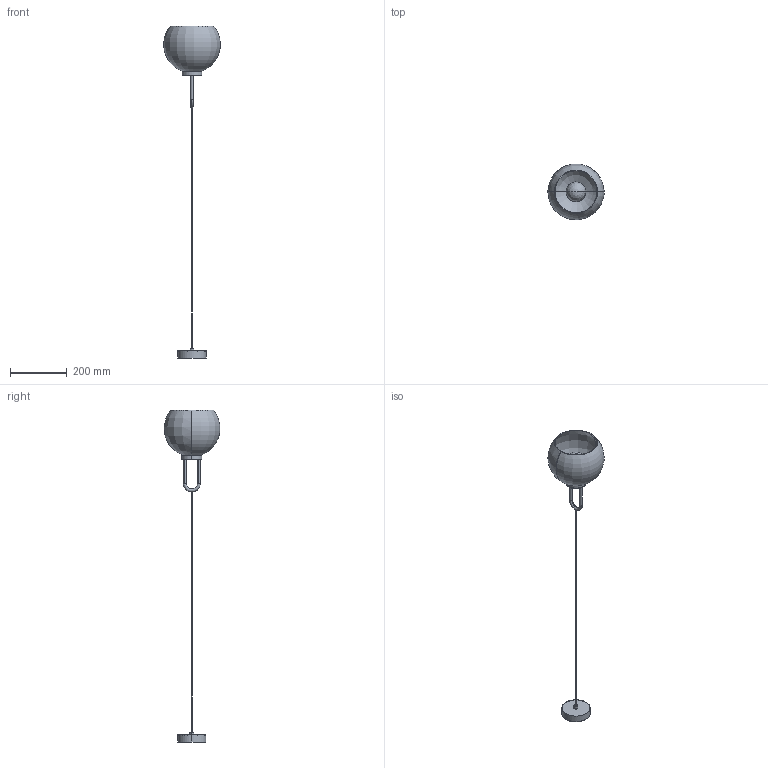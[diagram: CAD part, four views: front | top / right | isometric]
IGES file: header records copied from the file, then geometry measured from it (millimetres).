
Start section: SolidWorks IGES file using analytic representation for surfaces
Global section: file name: F:\燠隴矨\跤藝馱腔3D\Glass Pendant Light.IGS; native system: SolidWorks 2022; preprocessor: SolidWorks 2022; author: MyPC; date: 230521.120038; units: millimetre
Bounding box: 199.79 x 197.77 x 1174.34 mm (x, y, z)
Surface area: 296169.5 mm2 (no closed solid volume)
Topology: 0 solids, 0 shells, 47 faces, 1280 edges, 1277 vertices
Faces by surface type: revolution 26, bspline 21
